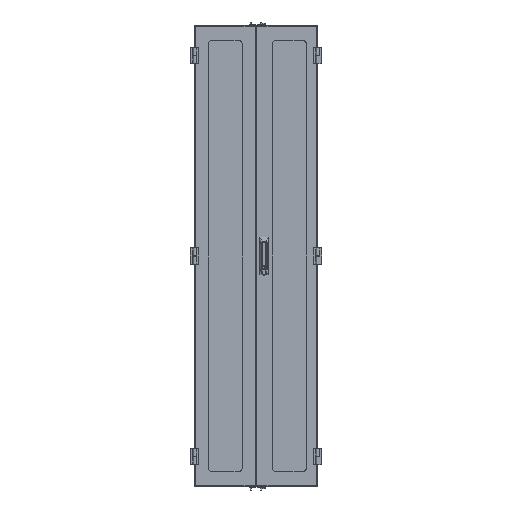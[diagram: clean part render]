
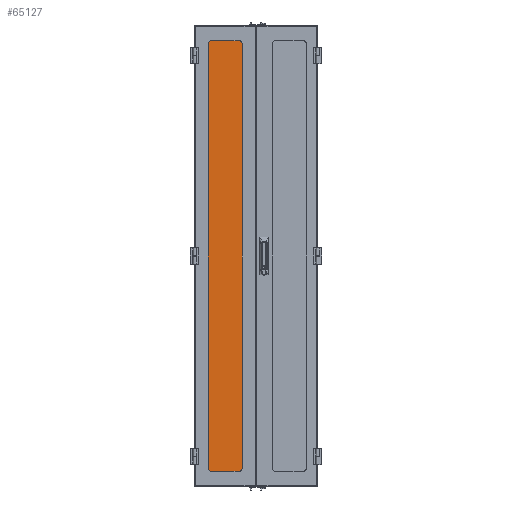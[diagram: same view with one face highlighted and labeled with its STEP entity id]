
A CAD part, front view. The second image highlights one B-rep face of the part: STEP entity #65127.
In plain terms, the highlighted planar face has unit normal (0, -1, 0).
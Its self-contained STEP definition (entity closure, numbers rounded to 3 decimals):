
#7037=ORIENTED_EDGE('',*,*,#27242,.T.);
#7038=ORIENTED_EDGE('',*,*,#27246,.T.);
#7039=ORIENTED_EDGE('',*,*,#27249,.T.);
#7040=ORIENTED_EDGE('',*,*,#27252,.T.);
#27242=EDGE_CURVE('',#37362,#37363,#44114,.T.);
#27246=EDGE_CURVE('',#37363,#37366,#44118,.T.);
#27249=EDGE_CURVE('',#37366,#37368,#44121,.T.);
#27252=EDGE_CURVE('',#37368,#37362,#44124,.T.);
#37362=VERTEX_POINT('',#93058);
#37363=VERTEX_POINT('',#93059);
#37366=VERTEX_POINT('',#93067);
#37368=VERTEX_POINT('',#93073);
#44114=LINE('',#93057,#49395);
#44118=LINE('',#93066,#49399);
#44121=LINE('',#93072,#49402);
#44124=LINE('',#93078,#49405);
#49395=VECTOR('',#76341,1000.);
#49399=VECTOR('',#76347,1000.);
#49402=VECTOR('',#76352,1000.);
#49405=VECTOR('',#76357,1000.);
#54681=EDGE_LOOP('',(#7037,#7038,#7039,#7040));
#58912=FACE_BOUND('',#54681,.T.);
#63134=PLANE('',#70564);
#65127=ADVANCED_FACE('',(#58912),#63134,.T.);
#70564=AXIS2_PLACEMENT_3D('',#93081,#76361,#76362);
#76341=DIRECTION('',(1.,0.,0.));
#76347=DIRECTION('',(0.,0.,1.));
#76352=DIRECTION('',(-1.,0.,0.));
#76357=DIRECTION('',(0.,0.,-1.));
#76361=DIRECTION('',(0.,-1.,0.));
#76362=DIRECTION('',(0.,0.,-1.));
#93057=CARTESIAN_POINT('',(84.138,0.,-924.725));
#93058=CARTESIAN_POINT('',(-84.138,0.,-924.725));
#93059=CARTESIAN_POINT('',(84.138,0.,-924.725));
#93066=CARTESIAN_POINT('',(84.138,0.,-924.725));
#93067=CARTESIAN_POINT('',(84.138,0.,924.725));
#93072=CARTESIAN_POINT('',(84.138,0.,924.725));
#93073=CARTESIAN_POINT('',(-84.138,0.,924.725));
#93078=CARTESIAN_POINT('',(-84.138,0.,924.725));
#93081=CARTESIAN_POINT('',(84.138,0.,-924.725));
